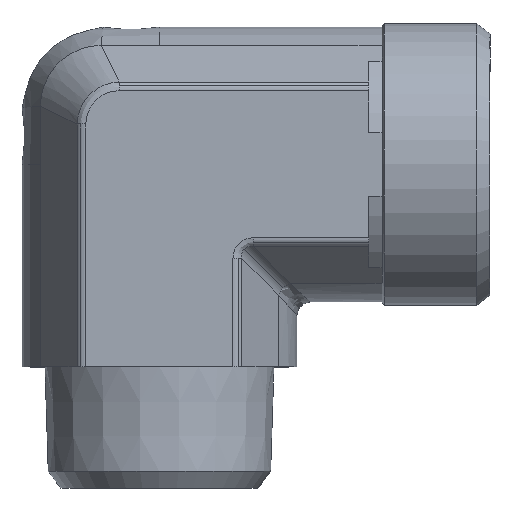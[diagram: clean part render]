
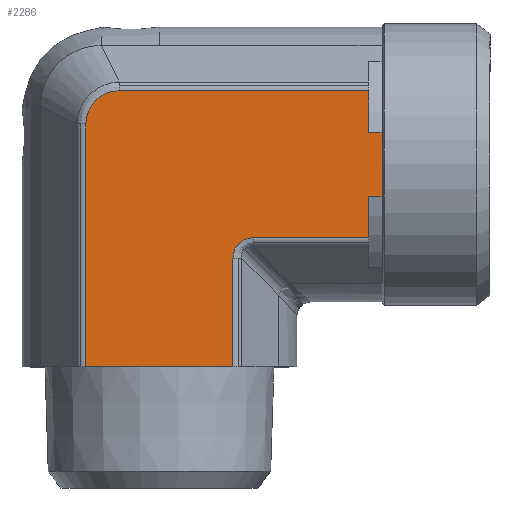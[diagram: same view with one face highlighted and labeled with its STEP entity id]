
A CAD part, top view. The second image highlights one B-rep face of the part: STEP entity #2286.
In plain terms, the highlighted planar face has unit normal (0, 0, 1) as drawn and (0, -1, 0) by its records, which use the part's own axes.
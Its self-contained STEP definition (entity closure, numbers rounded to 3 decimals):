
#319=CARTESIAN_POINT('',(9.429,-20.375,10.897));
#320=VERTEX_POINT('',#319);
#328=CARTESIAN_POINT('',(25.5,-20.375,10.897));
#329=VERTEX_POINT('',#328);
#330=CARTESIAN_POINT('',(9.429,-20.375,10.897));
#331=DIRECTION('',(1.0,0.0,0.0));
#332=VECTOR('',#331,16.071);
#333=LINE('',#330,#332);
#334=EDGE_CURVE('',#320,#329,#333,.T.);
#443=CARTESIAN_POINT('',(-15.397,-20.375,-5.976));
#444=VERTEX_POINT('',#443);
#452=CARTESIAN_POINT('',(-15.397,-20.375,31.0));
#453=VERTEX_POINT('',#452);
#454=CARTESIAN_POINT('',(-15.397,-20.375,-5.976));
#455=DIRECTION('',(0.0,0.0,1.0));
#456=VECTOR('',#455,36.976);
#457=LINE('',#454,#456);
#458=EDGE_CURVE('',#444,#453,#457,.T.);
#1845=CARTESIAN_POINT('',(6.397,-20.375,31.));
#1846=VERTEX_POINT('',#1845);
#1847=CARTESIAN_POINT('',(0.2,-20.375,31.0));
#1848=VERTEX_POINT('',#1847);
#1849=CARTESIAN_POINT('',(6.397,-20.375,31.));
#1850=DIRECTION('',(-1.0,0.0,0.0));
#1851=VECTOR('',#1850,6.198);
#1852=LINE('',#1849,#1851);
#1853=EDGE_CURVE('',#1846,#1848,#1852,.T.);
#1904=CARTESIAN_POINT('',(-9.2,-20.375,31.0));
#1905=VERTEX_POINT('',#1904);
#1906=CARTESIAN_POINT('',(-9.2,-20.375,31.0));
#1907=DIRECTION('',(-1.0,0.0,0.0));
#1908=VECTOR('',#1907,6.198);
#1909=LINE('',#1906,#1908);
#1910=EDGE_CURVE('',#1905,#453,#1909,.T.);
#1968=CARTESIAN_POINT('',(-9.2,-20.375,33.0));
#1969=VERTEX_POINT('',#1968);
#1970=CARTESIAN_POINT('',(-9.2,-20.375,33.0));
#1971=DIRECTION('',(0.0,0.0,-1.0));
#1972=VECTOR('',#1971,2.0);
#1973=LINE('',#1970,#1972);
#1974=EDGE_CURVE('',#1969,#1905,#1973,.T.);
#1991=CARTESIAN_POINT('',(0.2,-20.375,33.0));
#1992=VERTEX_POINT('',#1991);
#1993=CARTESIAN_POINT('',(0.2,-20.375,31.0));
#1994=DIRECTION('',(0.0,0.0,1.0));
#1995=VECTOR('',#1994,2.0);
#1996=LINE('',#1993,#1995);
#1997=EDGE_CURVE('',#1848,#1992,#1996,.T.);
#2198=CARTESIAN_POINT('',(-4.5,-20.375,33.0));
#2199=VERTEX_POINT('',#2198);
#2200=CARTESIAN_POINT('',(-4.5,-20.375,33.0));
#2201=DIRECTION('',(-1.0,0.0,0.0));
#2202=VECTOR('',#2201,4.7);
#2203=LINE('',#2200,#2202);
#2204=EDGE_CURVE('',#2199,#1969,#2203,.T.);
#2222=CARTESIAN_POINT('',(-4.5,-20.375,-3.175));
#2223=DIRECTION('',(0.0,-1.0,0.0));
#2224=DIRECTION('',(0.0,0.0,-1.0));
#2225=AXIS2_PLACEMENT_3D('',#2222,#2223,#2224);
#2226=PLANE('',#2225);
#2227=ORIENTED_EDGE('',*,*,#1974,.T.);
#2228=ORIENTED_EDGE('',*,*,#1910,.T.);
#2229=ORIENTED_EDGE('',*,*,#458,.F.);
#2230=CARTESIAN_POINT('',(-10.476,-20.375,-10.897));
#2231=VERTEX_POINT('',#2230);
#2232=CARTESIAN_POINT('',(-15.397,-20.375,-5.976));
#2233=CARTESIAN_POINT('',(-15.397,-20.375,-6.296));
#2234=CARTESIAN_POINT('',(-15.365,-20.375,-6.619));
#2235=CARTESIAN_POINT('',(-15.2,-20.375,-7.443));
#2236=CARTESIAN_POINT('',(-15.019,-20.375,-7.929));
#2237=CARTESIAN_POINT('',(-14.359,-20.375,-9.1));
#2238=CARTESIAN_POINT('',(-13.773,-20.375,-9.713));
#2239=CARTESIAN_POINT('',(-12.293,-20.375,-10.637));
#2240=CARTESIAN_POINT('',(-11.385,-20.375,-10.897));
#2241=CARTESIAN_POINT('',(-10.476,-20.375,-10.897));
#2242=B_SPLINE_CURVE_WITH_KNOTS('',3,(#2232,#2233,#2234,#2235,#2236,#2237,#2238,#2239,#2240,#2241),.UNSPECIFIED.,.F.,.U.,(4,2,2,2,4),(-7.686,-6.725,-5.188,-2.729,0.0),.UNSPECIFIED.);
#2243=EDGE_CURVE('',#2231,#444,#2242,.F.);
#2244=ORIENTED_EDGE('',*,*,#2243,.F.);
#2245=CARTESIAN_POINT('',(25.5,-20.375,-10.897));
#2246=VERTEX_POINT('',#2245);
#2247=CARTESIAN_POINT('',(25.5,-20.375,-10.897));
#2248=DIRECTION('',(-1.0,0.0,0.0));
#2249=VECTOR('',#2248,35.976);
#2250=LINE('',#2247,#2249);
#2251=EDGE_CURVE('',#2246,#2231,#2250,.T.);
#2252=ORIENTED_EDGE('',*,*,#2251,.F.);
#2253=CARTESIAN_POINT('',(25.5,-20.375,-10.897));
#2254=DIRECTION('',(0.0,0.0,1.0));
#2255=VECTOR('',#2254,21.795);
#2256=LINE('',#2253,#2255);
#2257=EDGE_CURVE('',#2246,#329,#2256,.T.);
#2258=ORIENTED_EDGE('',*,*,#2257,.T.);
#2259=ORIENTED_EDGE('',*,*,#334,.F.);
#2260=CARTESIAN_POINT('',(6.397,-20.375,13.929));
#2261=VERTEX_POINT('',#2260);
#2262=CARTESIAN_POINT('',(10.439,-20.375,14.939));
#2263=DIRECTION('',(0.,-1.,0.));
#2264=DIRECTION('',(-0.707,0.,-0.707));
#2265=AXIS2_PLACEMENT_3D('',#2262,#2263,#2264);
#2266=ELLIPSE('',#2265,4.518,3.5);
#2267=EDGE_CURVE('',#2261,#320,#2266,.T.);
#2268=ORIENTED_EDGE('',*,*,#2267,.F.);
#2269=CARTESIAN_POINT('',(6.397,-20.375,31.));
#2270=DIRECTION('',(0.0,0.0,-1.0));
#2271=VECTOR('',#2270,17.071);
#2272=LINE('',#2269,#2271);
#2273=EDGE_CURVE('',#1846,#2261,#2272,.T.);
#2274=ORIENTED_EDGE('',*,*,#2273,.F.);
#2275=ORIENTED_EDGE('',*,*,#1853,.T.);
#2276=ORIENTED_EDGE('',*,*,#1997,.T.);
#2277=CARTESIAN_POINT('',(0.2,-20.375,33.0));
#2278=DIRECTION('',(-1.0,0.0,0.0));
#2279=VECTOR('',#2278,4.7);
#2280=LINE('',#2277,#2279);
#2281=EDGE_CURVE('',#1992,#2199,#2280,.T.);
#2282=ORIENTED_EDGE('',*,*,#2281,.T.);
#2283=ORIENTED_EDGE('',*,*,#2204,.T.);
#2284=EDGE_LOOP('',(#2227,#2228,#2229,#2244,#2252,#2258,#2259,#2268,#2274,#2275,#2276,#2282,#2283));
#2285=FACE_OUTER_BOUND('',#2284,.T.);
#2286=ADVANCED_FACE('',(#2285),#2226,.T.);
